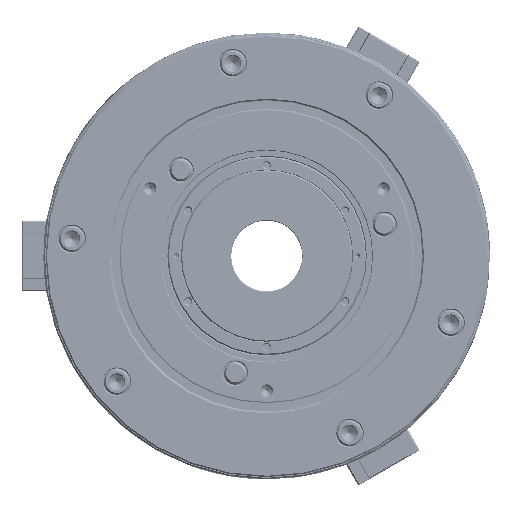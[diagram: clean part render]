
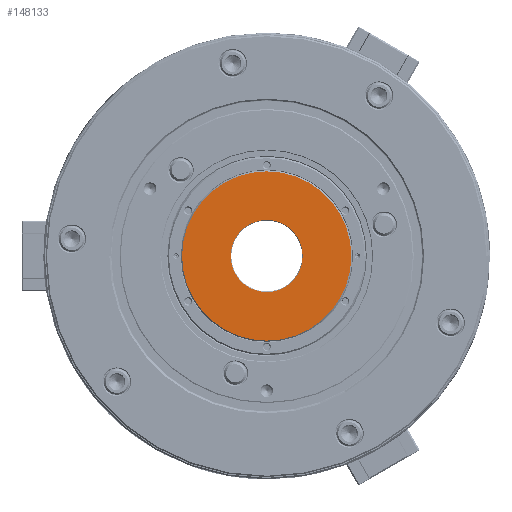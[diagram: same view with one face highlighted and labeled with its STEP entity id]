
A CAD part, left-side view. The second image highlights one B-rep face of the part: STEP entity #148133.
In plain terms, the highlighted planar face has unit normal (-1, 0, 0).
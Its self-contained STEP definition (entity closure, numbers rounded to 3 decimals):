
#2371 = EDGE_CURVE ( 'NONE', #156777, #243775, #149838, .T. ) ;
#10134 = DIRECTION ( 'NONE',  ( 0., 0., 1. ) ) ;
#10599 = EDGE_CURVE ( 'NONE', #200734, #207776, #155996, .T. ) ;
#12661 = FACE_OUTER_BOUND ( 'NONE', #54708, .T. ) ;
#22996 = AXIS2_PLACEMENT_3D ( 'NONE', #45382, #44133, #69316 ) ;
#27895 = CARTESIAN_POINT ( 'NONE',  ( -47., 59.7, 0. ) ) ;
#27981 = CARTESIAN_POINT ( 'NONE',  ( -47., 0., 0. ) ) ;
#34979 = ORIENTED_EDGE ( 'NONE', *, *, #99790, .T. ) ;
#44133 = DIRECTION ( 'NONE',  ( -1., 0., 0. ) ) ;
#45382 = CARTESIAN_POINT ( 'NONE',  ( -47., 0., 0. ) ) ;
#47177 = AXIS2_PLACEMENT_3D ( 'NONE', #27981, #161745, #104971 ) ;
#54708 = EDGE_LOOP ( 'NONE', ( #34979, #193777 ) ) ;
#57641 = AXIS2_PLACEMENT_3D ( 'NONE', #67456, #160864, #237753 ) ;
#67456 = CARTESIAN_POINT ( 'NONE',  ( -47., 0., 0. ) ) ;
#69316 = DIRECTION ( 'NONE',  ( 0., 0., 1. ) ) ;
#74188 = CARTESIAN_POINT ( 'NONE',  ( -47., 0., -59.7 ) ) ;
#85965 = DIRECTION ( 'NONE',  ( 1., 0., 0. ) ) ;
#90606 = CARTESIAN_POINT ( 'NONE',  ( -47., 0., -25.4 ) ) ;
#95601 = CIRCLE ( 'NONE', #22996, 59.7 ) ;
#99790 = EDGE_CURVE ( 'NONE', #207776, #200734, #95601, .T. ) ;
#104971 = DIRECTION ( 'NONE',  ( 0., 0., 1. ) ) ;
#148133 = ADVANCED_FACE ( 'NONE', ( #165389, #12661 ), #239802, .F. ) ;
#149838 = CIRCLE ( 'NONE', #153785, 25.4 ) ;
#153785 = AXIS2_PLACEMENT_3D ( 'NONE', #165349, #181792, #10134 ) ;
#155996 = CIRCLE ( 'NONE', #47177, 59.7 ) ;
#156777 = VERTEX_POINT ( 'NONE', #90606 ) ;
#160785 = CARTESIAN_POINT ( 'NONE',  ( -47., 0., 25.4 ) ) ;
#160864 = DIRECTION ( 'NONE',  ( -1., 0., 0. ) ) ;
#161745 = DIRECTION ( 'NONE',  ( -1., 0., 0. ) ) ;
#164154 = DIRECTION ( 'NONE',  ( 0., 0., -1. ) ) ;
#165349 = CARTESIAN_POINT ( 'NONE',  ( -47., 0., 0. ) ) ;
#165389 = FACE_BOUND ( 'NONE', #221216, .T. ) ;
#181792 = DIRECTION ( 'NONE',  ( -1., 0., 0. ) ) ;
#186830 = EDGE_CURVE ( 'NONE', #243775, #156777, #210680, .T. ) ;
#187564 = ORIENTED_EDGE ( 'NONE', *, *, #2371, .F. ) ;
#193777 = ORIENTED_EDGE ( 'NONE', *, *, #10599, .T. ) ;
#197140 = ORIENTED_EDGE ( 'NONE', *, *, #186830, .F. ) ;
#200734 = VERTEX_POINT ( 'NONE', #206331 ) ;
#203379 = AXIS2_PLACEMENT_3D ( 'NONE', #27895, #85965, #164154 ) ;
#206331 = CARTESIAN_POINT ( 'NONE',  ( -47., 0., 59.7 ) ) ;
#207776 = VERTEX_POINT ( 'NONE', #74188 ) ;
#210680 = CIRCLE ( 'NONE', #57641, 25.4 ) ;
#221216 = EDGE_LOOP ( 'NONE', ( #197140, #187564 ) ) ;
#237753 = DIRECTION ( 'NONE',  ( 0., 0., 1. ) ) ;
#239802 = PLANE ( 'NONE',  #203379 ) ;
#243775 = VERTEX_POINT ( 'NONE', #160785 ) ;
